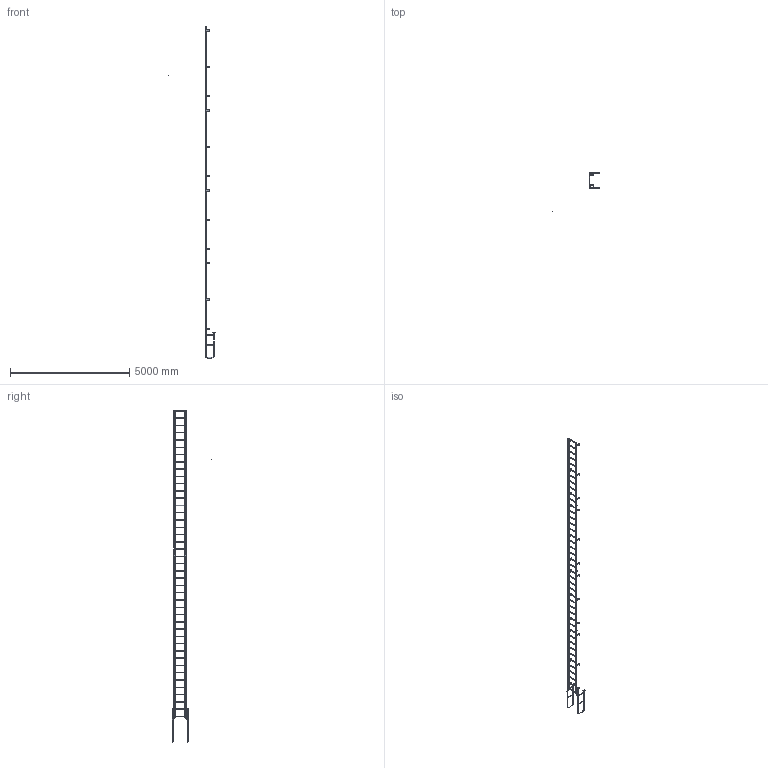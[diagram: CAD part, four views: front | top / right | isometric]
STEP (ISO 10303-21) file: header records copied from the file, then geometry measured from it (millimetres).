
FILE_DESCRIPTION(/* description */ (''),/* implementation_level */ '2;1');
FILE_NAME(/* name */ 'P:\MIKEL & KAREN\3570389 F43W SIMPLIFIED PART.stp',/* time_stamp */ '2018-07-13T14:22:51-04:00',/* author */ ('karen'),/* organization */ (''),/* preprocessor_version */ 'ST-DEVELOPER v16.1',/* originating_system */ 'Autodesk Inventor 2016',/* authorisation */ '');
FILE_SCHEMA (('AUTOMOTIVE_DESIGN { 1 0 10303 214 3 1 1 }'));
Length unit declared in the file: centimetre
Products named in the file (1): 3570389 F43W SIMPLIFIED PART
Bounding box: 1949.33 x 1668.21 x 13916.02 mm (x, y, z)
Volume: 23625996 mm3; surface area: 7867669.7 mm2
Topology: 52 solids, 52 shells, 802 faces, 2140 edges, 1414 vertices
Faces by surface type: plane 460, cylinder 334, torus 8
Full cylindrical faces by diameter (mm): 0.254 x1, 10.319 x4, 14.287 x30, 19.05 x43, 22.098 x10, 22.225 x86, 25.4 x10
Entity records: 24756 total; most frequent: CARTESIAN_POINT 4325, DIRECTION 4136, ORIENTED_EDGE 3664, EDGE_CURVE 1828, AXIS2_PLACEMENT_3D 1521, VERTEX_POINT 1294, EDGE_LOOP 1240, LINE 1094
